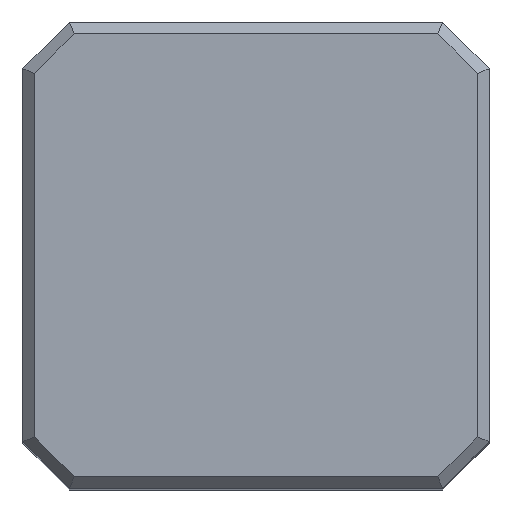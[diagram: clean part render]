
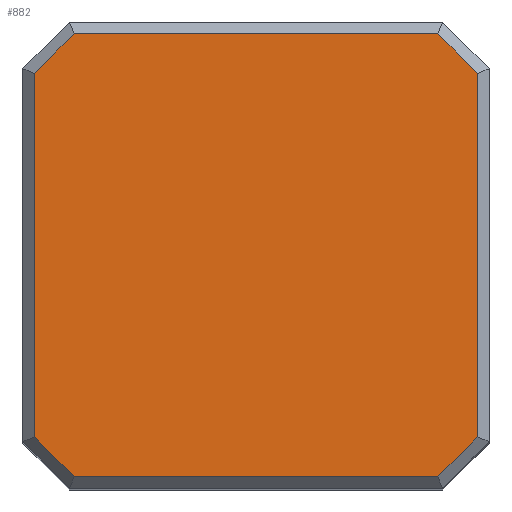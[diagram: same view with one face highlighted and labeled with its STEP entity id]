
A CAD part, top view. The second image highlights one B-rep face of the part: STEP entity #882.
In plain terms, the highlighted planar face has unit normal (0, 0, 1).
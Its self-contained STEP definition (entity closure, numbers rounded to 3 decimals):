
#144 = PLANE('',#145);
#145 = AXIS2_PLACEMENT_3D('',#146,#147,#148);
#146 = CARTESIAN_POINT('',(-7.8,-6.4,31.8));
#147 = DIRECTION('',(0.707,0.,-0.707)
  );
#148 = DIRECTION('',(0.,1.,0.));
#176 = PLANE('',#177);
#177 = AXIS2_PLACEMENT_3D('',#178,#179,#180);
#178 = CARTESIAN_POINT('',(-7.859,-6.259,31.8));
#179 = DIRECTION('',(0.5,0.5,-0.707));
#180 = DIRECTION('',(0.707,-0.707,0.));
#327 = VERTEX_POINT('',#328);
#328 = CARTESIAN_POINT('',(-7.6,-6.234,32.));
#351 = VERTEX_POINT('',#352);
#352 = CARTESIAN_POINT('',(-7.6,6.234,32.));
#366 = PLANE('',#367);
#367 = AXIS2_PLACEMENT_3D('',#368,#369,#370);
#368 = CARTESIAN_POINT('',(-7.859,6.259,31.8));
#369 = DIRECTION('',(-0.5,0.5,0.707));
#370 = DIRECTION('',(0.707,0.707,0.));
#378 = EDGE_CURVE('',#327,#351,#379,.T.);
#379 = SURFACE_CURVE('',#380,(#384,#391),.PCURVE_S1.);
#380 = LINE('',#381,#382);
#381 = CARTESIAN_POINT('',(-7.6,-6.4,32.));
#382 = VECTOR('',#383,1.);
#383 = DIRECTION('',(-0.,1.,0.));
#384 = PCURVE('',#144,#385);
#385 = DEFINITIONAL_REPRESENTATION('',(#386),#390);
#386 = LINE('',#387,#388);
#387 = CARTESIAN_POINT('',(0.,0.283));
#388 = VECTOR('',#389,1.);
#389 = DIRECTION('',(1.,0.));
#390 = ( GEOMETRIC_REPRESENTATION_CONTEXT(2) 
PARAMETRIC_REPRESENTATION_CONTEXT() REPRESENTATION_CONTEXT('2D SPACE',''
  ) );
#391 = PCURVE('',#392,#397);
#392 = PLANE('',#393);
#393 = AXIS2_PLACEMENT_3D('',#394,#395,#396);
#394 = CARTESIAN_POINT('',(-8.,-8.,32.));
#395 = DIRECTION('',(0.,0.,1.));
#396 = DIRECTION('',(1.,0.,-0.));
#397 = DEFINITIONAL_REPRESENTATION('',(#398),#402);
#398 = LINE('',#399,#400);
#399 = CARTESIAN_POINT('',(0.4,1.6));
#400 = VECTOR('',#401,1.);
#401 = DIRECTION('',(0.,1.));
#402 = ( GEOMETRIC_REPRESENTATION_CONTEXT(2) 
PARAMETRIC_REPRESENTATION_CONTEXT() REPRESENTATION_CONTEXT('2D SPACE',''
  ) );
#538 = EDGE_CURVE('',#327,#539,#541,.T.);
#539 = VERTEX_POINT('',#540);
#540 = CARTESIAN_POINT('',(-6.234,-7.6,32.));
#541 = SURFACE_CURVE('',#542,(#546,#553),.PCURVE_S1.);
#542 = LINE('',#543,#544);
#543 = CARTESIAN_POINT('',(-7.717,-6.117,32.));
#544 = VECTOR('',#545,1.);
#545 = DIRECTION('',(0.707,-0.707,0.));
#546 = PCURVE('',#176,#547);
#547 = DEFINITIONAL_REPRESENTATION('',(#548),#552);
#548 = LINE('',#549,#550);
#549 = CARTESIAN_POINT('',(0.,-0.283));
#550 = VECTOR('',#551,1.);
#551 = DIRECTION('',(1.,0.));
#552 = ( GEOMETRIC_REPRESENTATION_CONTEXT(2) 
PARAMETRIC_REPRESENTATION_CONTEXT() REPRESENTATION_CONTEXT('2D SPACE',''
  ) );
#553 = PCURVE('',#392,#554);
#554 = DEFINITIONAL_REPRESENTATION('',(#555),#559);
#555 = LINE('',#556,#557);
#556 = CARTESIAN_POINT('',(0.283,1.883));
#557 = VECTOR('',#558,1.);
#558 = DIRECTION('',(0.707,-0.707));
#559 = ( GEOMETRIC_REPRESENTATION_CONTEXT(2) 
PARAMETRIC_REPRESENTATION_CONTEXT() REPRESENTATION_CONTEXT('2D SPACE',''
  ) );
#575 = PLANE('',#576);
#576 = AXIS2_PLACEMENT_3D('',#577,#578,#579);
#577 = CARTESIAN_POINT('',(-6.4,-7.8,31.8));
#578 = DIRECTION('',(0.,0.707,-0.707)
  );
#579 = DIRECTION('',(1.,0.,0.));
#882 = ADVANCED_FACE('',(#883),#392,.T.);
#883 = FACE_BOUND('',#884,.T.);
#884 = EDGE_LOOP('',(#885,#886,#887,#910,#938,#966,#994,#1022));
#885 = ORIENTED_EDGE('',*,*,#378,.F.);
#886 = ORIENTED_EDGE('',*,*,#538,.T.);
#887 = ORIENTED_EDGE('',*,*,#888,.T.);
#888 = EDGE_CURVE('',#539,#889,#891,.T.);
#889 = VERTEX_POINT('',#890);
#890 = CARTESIAN_POINT('',(6.234,-7.6,32.));
#891 = SURFACE_CURVE('',#892,(#896,#903),.PCURVE_S1.);
#892 = LINE('',#893,#894);
#893 = CARTESIAN_POINT('',(-6.4,-7.6,32.));
#894 = VECTOR('',#895,1.);
#895 = DIRECTION('',(1.,0.,-0.));
#896 = PCURVE('',#392,#897);
#897 = DEFINITIONAL_REPRESENTATION('',(#898),#902);
#898 = LINE('',#899,#900);
#899 = CARTESIAN_POINT('',(1.6,0.4));
#900 = VECTOR('',#901,1.);
#901 = DIRECTION('',(1.,0.));
#902 = ( GEOMETRIC_REPRESENTATION_CONTEXT(2) 
PARAMETRIC_REPRESENTATION_CONTEXT() REPRESENTATION_CONTEXT('2D SPACE',''
  ) );
#903 = PCURVE('',#575,#904);
#904 = DEFINITIONAL_REPRESENTATION('',(#905),#909);
#905 = LINE('',#906,#907);
#906 = CARTESIAN_POINT('',(0.,-0.283));
#907 = VECTOR('',#908,1.);
#908 = DIRECTION('',(1.,0.));
#909 = ( GEOMETRIC_REPRESENTATION_CONTEXT(2) 
PARAMETRIC_REPRESENTATION_CONTEXT() REPRESENTATION_CONTEXT('2D SPACE',''
  ) );
#910 = ORIENTED_EDGE('',*,*,#911,.F.);
#911 = EDGE_CURVE('',#912,#889,#914,.T.);
#912 = VERTEX_POINT('',#913);
#913 = CARTESIAN_POINT('',(7.6,-6.234,32.));
#914 = SURFACE_CURVE('',#915,(#919,#926),.PCURVE_S1.);
#915 = LINE('',#916,#917);
#916 = CARTESIAN_POINT('',(7.717,-6.117,32.));
#917 = VECTOR('',#918,1.);
#918 = DIRECTION('',(-0.707,-0.707,0.));
#919 = PCURVE('',#392,#920);
#920 = DEFINITIONAL_REPRESENTATION('',(#921),#925);
#921 = LINE('',#922,#923);
#922 = CARTESIAN_POINT('',(15.717,1.883));
#923 = VECTOR('',#924,1.);
#924 = DIRECTION('',(-0.707,-0.707));
#925 = ( GEOMETRIC_REPRESENTATION_CONTEXT(2) 
PARAMETRIC_REPRESENTATION_CONTEXT() REPRESENTATION_CONTEXT('2D SPACE',''
  ) );
#926 = PCURVE('',#927,#932);
#927 = PLANE('',#928);
#928 = AXIS2_PLACEMENT_3D('',#929,#930,#931);
#929 = CARTESIAN_POINT('',(7.859,-6.259,31.8));
#930 = DIRECTION('',(0.5,-0.5,0.707));
#931 = DIRECTION('',(-0.707,-0.707,0.
    ));
#932 = DEFINITIONAL_REPRESENTATION('',(#933),#937);
#933 = LINE('',#934,#935);
#934 = CARTESIAN_POINT('',(0.,-0.283));
#935 = VECTOR('',#936,1.);
#936 = DIRECTION('',(1.,0.));
#937 = ( GEOMETRIC_REPRESENTATION_CONTEXT(2) 
PARAMETRIC_REPRESENTATION_CONTEXT() REPRESENTATION_CONTEXT('2D SPACE',''
  ) );
#938 = ORIENTED_EDGE('',*,*,#939,.T.);
#939 = EDGE_CURVE('',#912,#940,#942,.T.);
#940 = VERTEX_POINT('',#941);
#941 = CARTESIAN_POINT('',(7.6,6.234,32.));
#942 = SURFACE_CURVE('',#943,(#947,#954),.PCURVE_S1.);
#943 = LINE('',#944,#945);
#944 = CARTESIAN_POINT('',(7.6,-6.4,32.));
#945 = VECTOR('',#946,1.);
#946 = DIRECTION('',(-0.,1.,0.));
#947 = PCURVE('',#392,#948);
#948 = DEFINITIONAL_REPRESENTATION('',(#949),#953);
#949 = LINE('',#950,#951);
#950 = CARTESIAN_POINT('',(15.6,1.6));
#951 = VECTOR('',#952,1.);
#952 = DIRECTION('',(0.,1.));
#953 = ( GEOMETRIC_REPRESENTATION_CONTEXT(2) 
PARAMETRIC_REPRESENTATION_CONTEXT() REPRESENTATION_CONTEXT('2D SPACE',''
  ) );
#954 = PCURVE('',#955,#960);
#955 = PLANE('',#956);
#956 = AXIS2_PLACEMENT_3D('',#957,#958,#959);
#957 = CARTESIAN_POINT('',(7.8,-6.4,31.8));
#958 = DIRECTION('',(0.707,0.,0.707));
#959 = DIRECTION('',(0.,-1.,-0.));
#960 = DEFINITIONAL_REPRESENTATION('',(#961),#965);
#961 = LINE('',#962,#963);
#962 = CARTESIAN_POINT('',(-0.,-0.283));
#963 = VECTOR('',#964,1.);
#964 = DIRECTION('',(-1.,0.));
#965 = ( GEOMETRIC_REPRESENTATION_CONTEXT(2) 
PARAMETRIC_REPRESENTATION_CONTEXT() REPRESENTATION_CONTEXT('2D SPACE',''
  ) );
#966 = ORIENTED_EDGE('',*,*,#967,.T.);
#967 = EDGE_CURVE('',#940,#968,#970,.T.);
#968 = VERTEX_POINT('',#969);
#969 = CARTESIAN_POINT('',(6.234,7.6,32.));
#970 = SURFACE_CURVE('',#971,(#975,#982),.PCURVE_S1.);
#971 = LINE('',#972,#973);
#972 = CARTESIAN_POINT('',(7.717,6.117,32.));
#973 = VECTOR('',#974,1.);
#974 = DIRECTION('',(-0.707,0.707,0.));
#975 = PCURVE('',#392,#976);
#976 = DEFINITIONAL_REPRESENTATION('',(#977),#981);
#977 = LINE('',#978,#979);
#978 = CARTESIAN_POINT('',(15.717,14.117));
#979 = VECTOR('',#980,1.);
#980 = DIRECTION('',(-0.707,0.707));
#981 = ( GEOMETRIC_REPRESENTATION_CONTEXT(2) 
PARAMETRIC_REPRESENTATION_CONTEXT() REPRESENTATION_CONTEXT('2D SPACE',''
  ) );
#982 = PCURVE('',#983,#988);
#983 = PLANE('',#984);
#984 = AXIS2_PLACEMENT_3D('',#985,#986,#987);
#985 = CARTESIAN_POINT('',(7.859,6.259,31.8));
#986 = DIRECTION('',(-0.5,-0.5,-0.707));
#987 = DIRECTION('',(-0.707,0.707,0.));
#988 = DEFINITIONAL_REPRESENTATION('',(#989),#993);
#989 = LINE('',#990,#991);
#990 = CARTESIAN_POINT('',(0.,-0.283));
#991 = VECTOR('',#992,1.);
#992 = DIRECTION('',(1.,0.));
#993 = ( GEOMETRIC_REPRESENTATION_CONTEXT(2) 
PARAMETRIC_REPRESENTATION_CONTEXT() REPRESENTATION_CONTEXT('2D SPACE',''
  ) );
#994 = ORIENTED_EDGE('',*,*,#995,.F.);
#995 = EDGE_CURVE('',#996,#968,#998,.T.);
#996 = VERTEX_POINT('',#997);
#997 = CARTESIAN_POINT('',(-6.234,7.6,32.));
#998 = SURFACE_CURVE('',#999,(#1003,#1010),.PCURVE_S1.);
#999 = LINE('',#1000,#1001);
#1000 = CARTESIAN_POINT('',(-6.4,7.6,32.));
#1001 = VECTOR('',#1002,1.);
#1002 = DIRECTION('',(1.,0.,-0.));
#1003 = PCURVE('',#392,#1004);
#1004 = DEFINITIONAL_REPRESENTATION('',(#1005),#1009);
#1005 = LINE('',#1006,#1007);
#1006 = CARTESIAN_POINT('',(1.6,15.6));
#1007 = VECTOR('',#1008,1.);
#1008 = DIRECTION('',(1.,0.));
#1009 = ( GEOMETRIC_REPRESENTATION_CONTEXT(2) 
PARAMETRIC_REPRESENTATION_CONTEXT() REPRESENTATION_CONTEXT('2D SPACE',''
  ) );
#1010 = PCURVE('',#1011,#1016);
#1011 = PLANE('',#1012);
#1012 = AXIS2_PLACEMENT_3D('',#1013,#1014,#1015);
#1013 = CARTESIAN_POINT('',(-6.4,7.8,31.8));
#1014 = DIRECTION('',(0.,0.707,0.707)
  );
#1015 = DIRECTION('',(1.,0.,0.));
#1016 = DEFINITIONAL_REPRESENTATION('',(#1017),#1021);
#1017 = LINE('',#1018,#1019);
#1018 = CARTESIAN_POINT('',(0.,-0.283));
#1019 = VECTOR('',#1020,1.);
#1020 = DIRECTION('',(1.,0.));
#1021 = ( GEOMETRIC_REPRESENTATION_CONTEXT(2) 
PARAMETRIC_REPRESENTATION_CONTEXT() REPRESENTATION_CONTEXT('2D SPACE',''
  ) );
#1022 = ORIENTED_EDGE('',*,*,#1023,.F.);
#1023 = EDGE_CURVE('',#351,#996,#1024,.T.);
#1024 = SURFACE_CURVE('',#1025,(#1029,#1036),.PCURVE_S1.);
#1025 = LINE('',#1026,#1027);
#1026 = CARTESIAN_POINT('',(-7.717,6.117,32.));
#1027 = VECTOR('',#1028,1.);
#1028 = DIRECTION('',(0.707,0.707,-0.));
#1029 = PCURVE('',#392,#1030);
#1030 = DEFINITIONAL_REPRESENTATION('',(#1031),#1035);
#1031 = LINE('',#1032,#1033);
#1032 = CARTESIAN_POINT('',(0.283,14.117));
#1033 = VECTOR('',#1034,1.);
#1034 = DIRECTION('',(0.707,0.707));
#1035 = ( GEOMETRIC_REPRESENTATION_CONTEXT(2) 
PARAMETRIC_REPRESENTATION_CONTEXT() REPRESENTATION_CONTEXT('2D SPACE',''
  ) );
#1036 = PCURVE('',#366,#1037);
#1037 = DEFINITIONAL_REPRESENTATION('',(#1038),#1042);
#1038 = LINE('',#1039,#1040);
#1039 = CARTESIAN_POINT('',(0.,-0.283));
#1040 = VECTOR('',#1041,1.);
#1041 = DIRECTION('',(1.,0.));
#1042 = ( GEOMETRIC_REPRESENTATION_CONTEXT(2) 
PARAMETRIC_REPRESENTATION_CONTEXT() REPRESENTATION_CONTEXT('2D SPACE',''
  ) );
